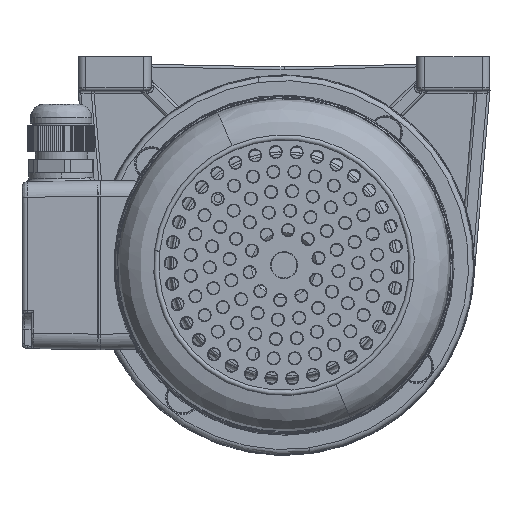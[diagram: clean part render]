
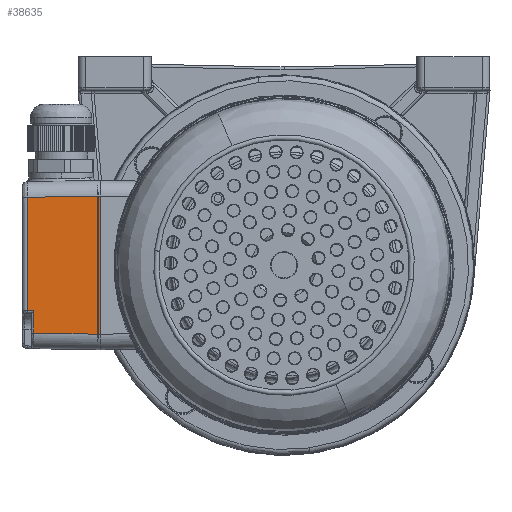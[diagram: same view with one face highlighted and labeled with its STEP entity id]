
A CAD part, front view. The second image highlights one B-rep face of the part: STEP entity #38635.
In plain terms, the highlighted planar face has unit normal (-0.018, -1, 0) as drawn and (-1, 0, 0.017) by its records, which use the part's own axes.
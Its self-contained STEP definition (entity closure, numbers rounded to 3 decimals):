
#7270 = EDGE_CURVE ( 'NONE', #52290, #119417, #102470, .T. ) ;
#8149 = EDGE_CURVE ( 'NONE', #119417, #52730, #34574, .T. ) ;
#8205 = EDGE_CURVE ( 'NONE', #119459, #52730, #34902, .T. ) ;
#8209 = EDGE_CURVE ( 'NONE', #52290, #52441, #34914, .T. ) ;
#8211 = EDGE_CURVE ( 'NONE', #119684, #119459, #34920, .T. ) ;
#8213 = EDGE_CURVE ( 'NONE', #52441, #119684, #34926, .T. ) ;
#25249 = CARTESIAN_POINT ( 'NONE',  ( -32.011, -26.012, 28.035 ) ) ;
#25291 = CARTESIAN_POINT ( 'NONE',  ( -32.5, 26.501, 0. ) ) ;
#25350 = CARTESIAN_POINT ( 'NONE',  ( -32.055, 26.056, 25.517 ) ) ;
#34574 = LINE ( 'NONE', #34575, #87322 ) ;
#34575 = CARTESIAN_POINT ( 'NONE',  ( -32.5, -26.501, 0. ) ) ;
#34576 = DIRECTION ( 'NONE',  ( -0.017, -0.017, -1. ) ) ;
#34902 = LINE ( 'NONE', #34903, #41318 ) ;
#34903 = CARTESIAN_POINT ( 'NONE',  ( -32.5, -29.151, 0. ) ) ;
#34904 = DIRECTION ( 'NONE',  ( 0., -1., 0. ) ) ;
#34914 = LINE ( 'NONE', #34915, #41317 ) ;
#34915 = CARTESIAN_POINT ( 'NONE',  ( -32.011, 17.473, 28.035 ) ) ;
#34916 = DIRECTION ( 'NONE',  ( -0.017, 0.017, -1. ) ) ;
#34920 = LINE ( 'NONE', #34921, #41345 ) ;
#34921 = CARTESIAN_POINT ( 'NONE',  ( -32.055, 26.056, 25.517 ) ) ;
#34922 = DIRECTION ( 'NONE',  ( -0.017, 0.017, -1. ) ) ;
#34926 = LINE ( 'NONE', #34927, #41337 ) ;
#34927 = CARTESIAN_POINT ( 'NONE',  ( -32.055, -29.151, 25.517 ) ) ;
#34928 = DIRECTION ( 'NONE',  ( 0., 1., 0. ) ) ;
#38377 = ORIENTED_EDGE ( 'NONE', *, *, #7270, .F. ) ;
#38635 = ADVANCED_FACE ( 'NONE', ( #116492 ), #103483, .T. ) ;
#38829 = ORIENTED_EDGE ( 'NONE', *, *, #8213, .T. ) ;
#38865 = ORIENTED_EDGE ( 'NONE', *, *, #8211, .T. ) ;
#39765 = ORIENTED_EDGE ( 'NONE', *, *, #8205, .T. ) ;
#39771 = ORIENTED_EDGE ( 'NONE', *, *, #8209, .T. ) ;
#39798 = ORIENTED_EDGE ( 'NONE', *, *, #8149, .F. ) ;
#41317 = VECTOR ( 'NONE', #34916, 1000. ) ;
#41318 = VECTOR ( 'NONE', #34904, 1000. ) ;
#41337 = VECTOR ( 'NONE', #34928, 1000. ) ;
#41345 = VECTOR ( 'NONE', #34922, 1000. ) ;
#52290 = VERTEX_POINT ( 'NONE', #118069 ) ;
#52441 = VERTEX_POINT ( 'NONE', #118193 ) ;
#52730 = VERTEX_POINT ( 'NONE', #118436 ) ;
#68346 = VECTOR ( 'NONE', #102472, 1000. ) ;
#87322 = VECTOR ( 'NONE', #34576, 1000. ) ;
#95955 = EDGE_LOOP ( 'NONE', ( #39771, #38829, #38865, #39765, #39798, #38377 ) ) ;
#102470 = LINE ( 'NONE', #102471, #68346 ) ;
#102471 = CARTESIAN_POINT ( 'NONE',  ( -32.011, 17.473, 28.035 ) ) ;
#102472 = DIRECTION ( 'NONE',  ( 0., -1., 0. ) ) ;
#103483 = PLANE ( 'NONE',  #116509 ) ;
#103484 = CARTESIAN_POINT ( 'NONE',  ( -31.986, -29.151, 29.437 ) ) ;
#103485 = DIRECTION ( 'NONE',  ( -1., 0., 0.017 ) ) ;
#103486 = DIRECTION ( 'NONE',  ( 0.017, 0., 1. ) ) ;
#116492 = FACE_OUTER_BOUND ( 'NONE', #95955, .T. ) ;
#116509 = AXIS2_PLACEMENT_3D ( 'NONE', #103484, #103485, #103486 ) ;
#118069 = CARTESIAN_POINT ( 'NONE',  ( -32.011, 17.473, 28.035 ) ) ;
#118193 = CARTESIAN_POINT ( 'NONE',  ( -32.055, 17.517, 25.517 ) ) ;
#118436 = CARTESIAN_POINT ( 'NONE',  ( -32.5, -26.501, 0. ) ) ;
#119417 = VERTEX_POINT ( 'NONE', #25249 ) ;
#119459 = VERTEX_POINT ( 'NONE', #25291 ) ;
#119684 = VERTEX_POINT ( 'NONE', #25350 ) ;
